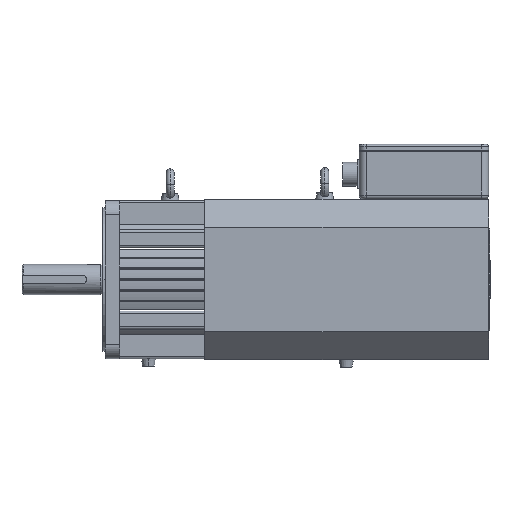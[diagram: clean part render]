
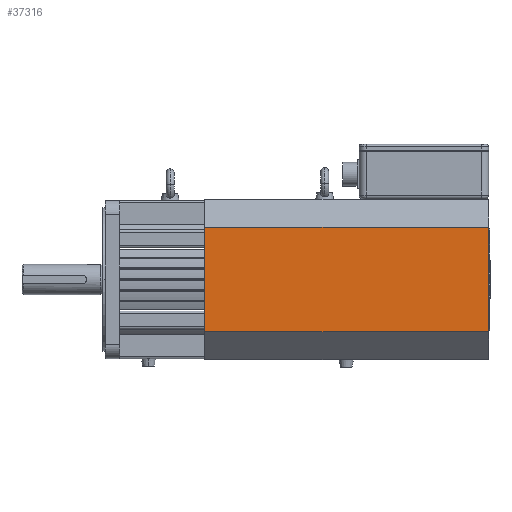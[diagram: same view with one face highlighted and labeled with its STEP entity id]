
A CAD part, front view. The second image highlights one B-rep face of the part: STEP entity #37316.
In plain terms, the highlighted planar face has unit normal (0, -1, 0).
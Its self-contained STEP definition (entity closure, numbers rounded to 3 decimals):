
#944 = VECTOR ( 'NONE', #58863, 1000. ) ;
#2798 = DIRECTION ( 'NONE',  ( -1., 0., 0. ) ) ;
#4212 = LINE ( 'NONE', #15362, #46755 ) ;
#5220 = CARTESIAN_POINT ( 'NONE',  ( 649., -111.5, 72.621 ) ) ;
#11504 = CARTESIAN_POINT ( 'NONE',  ( 254., -111.5, -72.621 ) ) ;
#11945 = ORIENTED_EDGE ( 'NONE', *, *, #15550, .F. ) ;
#13165 = CARTESIAN_POINT ( 'NONE',  ( 649., -111.5, -72.621 ) ) ;
#15362 = CARTESIAN_POINT ( 'NONE',  ( 254., -111.5, -72.621 ) ) ;
#15550 = EDGE_CURVE ( 'NONE', #51795, #40703, #45741, .T. ) ;
#15933 = VECTOR ( 'NONE', #31382, 1000. ) ;
#17065 = VERTEX_POINT ( 'NONE', #38795 ) ;
#17216 = AXIS2_PLACEMENT_3D ( 'NONE', #46136, #31283, #2798 ) ;
#24980 = LINE ( 'NONE', #32286, #30090 ) ;
#26958 = PLANE ( 'NONE',  #17216 ) ;
#29493 = EDGE_CURVE ( 'NONE', #40703, #17065, #4212, .T. ) ;
#30090 = VECTOR ( 'NONE', #33114, 1000. ) ;
#30860 = EDGE_CURVE ( 'NONE', #38663, #17065, #24980, .T. ) ;
#31283 = DIRECTION ( 'NONE',  ( 0., 1., 0. ) ) ;
#31353 = EDGE_CURVE ( 'NONE', #38663, #51795, #45045, .T. ) ;
#31382 = DIRECTION ( 'NONE',  ( 0., 0., -1. ) ) ;
#32286 = CARTESIAN_POINT ( 'NONE',  ( 649., -111.5, 72.621 ) ) ;
#33114 = DIRECTION ( 'NONE',  ( -1., 0., 0. ) ) ;
#37316 = ADVANCED_FACE ( 'NONE', ( #43031 ), #26958, .F. ) ;
#38663 = VERTEX_POINT ( 'NONE', #5220 ) ;
#38795 = CARTESIAN_POINT ( 'NONE',  ( 254., -111.5, 72.621 ) ) ;
#39317 = ORIENTED_EDGE ( 'NONE', *, *, #31353, .F. ) ;
#39361 = ORIENTED_EDGE ( 'NONE', *, *, #29493, .F. ) ;
#40703 = VERTEX_POINT ( 'NONE', #11504 ) ;
#41085 = EDGE_LOOP ( 'NONE', ( #39361, #11945, #39317, #43220 ) ) ;
#43031 = FACE_OUTER_BOUND ( 'NONE', #41085, .T. ) ;
#43220 = ORIENTED_EDGE ( 'NONE', *, *, #30860, .T. ) ;
#44869 = CARTESIAN_POINT ( 'NONE',  ( 649., -111.5, -72.621 ) ) ;
#45045 = LINE ( 'NONE', #46440, #15933 ) ;
#45741 = LINE ( 'NONE', #44869, #944 ) ;
#46136 = CARTESIAN_POINT ( 'NONE',  ( 649., -111.5, -111.5 ) ) ;
#46440 = CARTESIAN_POINT ( 'NONE',  ( 649., -111.5, -111.5 ) ) ;
#46755 = VECTOR ( 'NONE', #58980, 1000. ) ;
#51795 = VERTEX_POINT ( 'NONE', #13165 ) ;
#58863 = DIRECTION ( 'NONE',  ( -1., 0., 0. ) ) ;
#58980 = DIRECTION ( 'NONE',  ( 0., 0., 1. ) ) ;
